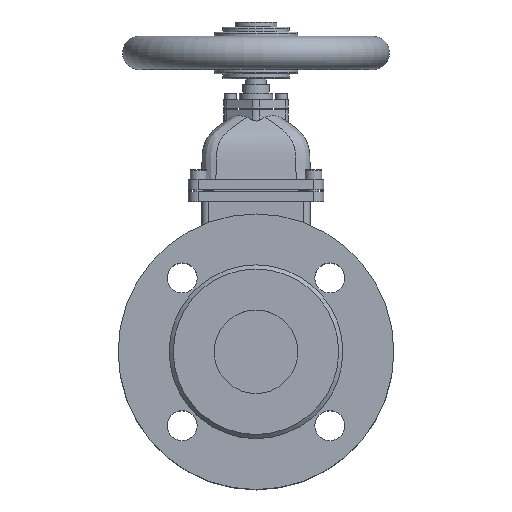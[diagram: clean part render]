
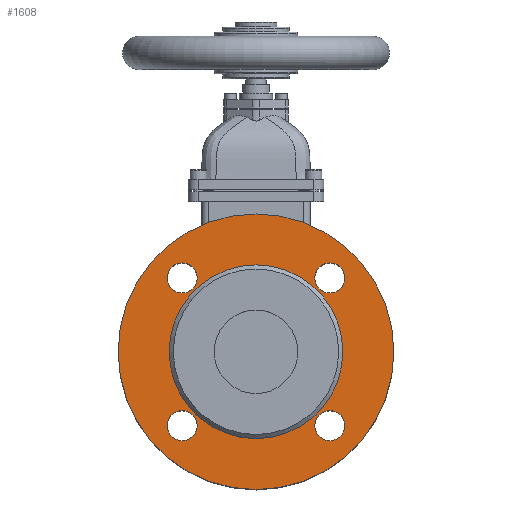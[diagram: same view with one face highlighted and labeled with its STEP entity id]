
A CAD part, top view. The second image highlights one B-rep face of the part: STEP entity #1608.
In plain terms, the highlighted planar face has unit normal (0, 0, 1).
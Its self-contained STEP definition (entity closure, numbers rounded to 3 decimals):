
#1608=ADVANCED_FACE('',(#7843,#7845,#7847,#7849,#7851,#7853),#7855,.T.);
#7843=FACE_BOUND('',#7844,.T.);
#7844=EDGE_LOOP('',(#9680));
#7845=FACE_BOUND('',#7846,.T.);
#7846=EDGE_LOOP('',(#9681));
#7847=FACE_BOUND('',#7848,.T.);
#7848=EDGE_LOOP('',(#9682));
#7849=FACE_BOUND('',#7850,.T.);
#7850=EDGE_LOOP('',(#9683));
#7851=FACE_BOUND('',#7852,.T.);
#7852=EDGE_LOOP('',(#9684));
#7853=FACE_BOUND('',#7854,.T.);
#7854=EDGE_LOOP('',(#9685));
#7855=PLANE('',#7856);
#7856=AXIS2_PLACEMENT_3D('',#7857,#7858,#7859);
#7857=CARTESIAN_POINT('',(0.,0.,67.5));
#7858=DIRECTION('',(0.,0.,1.));
#7859=DIRECTION('',(0.,1.,0.));
#9680=ORIENTED_EDGE('',*,*,#10512,.F.);
#9681=ORIENTED_EDGE('',*,*,#10516,.T.);
#9682=ORIENTED_EDGE('',*,*,#10515,.T.);
#9683=ORIENTED_EDGE('',*,*,#10514,.T.);
#9684=ORIENTED_EDGE('',*,*,#10519,.T.);
#9685=ORIENTED_EDGE('',*,*,#10513,.T.);
#10512=EDGE_CURVE('',#11877,#11877,#11878,.T.);
#10513=EDGE_CURVE('',#11879,#11879,#11880,.F.);
#10514=EDGE_CURVE('',#11881,#11881,#11882,.F.);
#10515=EDGE_CURVE('',#11883,#11883,#11884,.F.);
#10516=EDGE_CURVE('',#11885,#11885,#11886,.F.);
#10519=EDGE_CURVE('',#11891,#11891,#11892,.T.);
#11877=VERTEX_POINT('',#20198);
#11878=CIRCLE('',#20199,82.5);
#11879=VERTEX_POINT('',#20203);
#11880=CIRCLE('',#20204,9.);
#11881=VERTEX_POINT('',#20208);
#11882=CIRCLE('',#20209,9.);
#11883=VERTEX_POINT('',#20213);
#11884=CIRCLE('',#20214,9.);
#11885=VERTEX_POINT('',#20218);
#11886=CIRCLE('',#20219,9.);
#11891=VERTEX_POINT('',#20233);
#11892=CIRCLE('',#20234,52.);
#20198=CARTESIAN_POINT('',(0.,82.5,67.5));
#20199=AXIS2_PLACEMENT_3D('',#20200,#20201,#20202);
#20200=CARTESIAN_POINT('',(0.,0.,67.5));
#20201=DIRECTION('',(0.,0.,-1.));
#20202=DIRECTION('',(0.,1.,0.));
#20203=CARTESIAN_POINT('',(53.194,44.194,67.5));
#20204=AXIS2_PLACEMENT_3D('',#20205,#20206,#20207);
#20205=CARTESIAN_POINT('',(44.194,44.194,67.5));
#20206=DIRECTION('',(0.,0.,1.));
#20207=DIRECTION('',(1.,0.,0.));
#20208=CARTESIAN_POINT('',(-44.194,53.194,67.5));
#20209=AXIS2_PLACEMENT_3D('',#20210,#20211,#20212);
#20210=CARTESIAN_POINT('',(-44.194,44.194,67.5));
#20211=DIRECTION('',(0.,0.,1.));
#20212=DIRECTION('',(0.,1.,0.));
#20213=CARTESIAN_POINT('',(-53.194,-44.194,67.5));
#20214=AXIS2_PLACEMENT_3D('',#20215,#20216,#20217);
#20215=CARTESIAN_POINT('',(-44.194,-44.194,67.5));
#20216=DIRECTION('',(0.,0.,1.));
#20217=DIRECTION('',(-1.,0.,0.));
#20218=CARTESIAN_POINT('',(44.194,-53.194,67.5));
#20219=AXIS2_PLACEMENT_3D('',#20220,#20221,#20222);
#20220=CARTESIAN_POINT('',(44.194,-44.194,67.5));
#20221=DIRECTION('',(0.,0.,1.));
#20222=DIRECTION('',(0.,-1.,0.));
#20233=CARTESIAN_POINT('',(0.,52.,67.5));
#20234=AXIS2_PLACEMENT_3D('',#20235,#20236,#20237);
#20235=CARTESIAN_POINT('',(0.,0.,67.5));
#20236=DIRECTION('',(0.,0.,-1.));
#20237=DIRECTION('',(0.,1.,0.));
